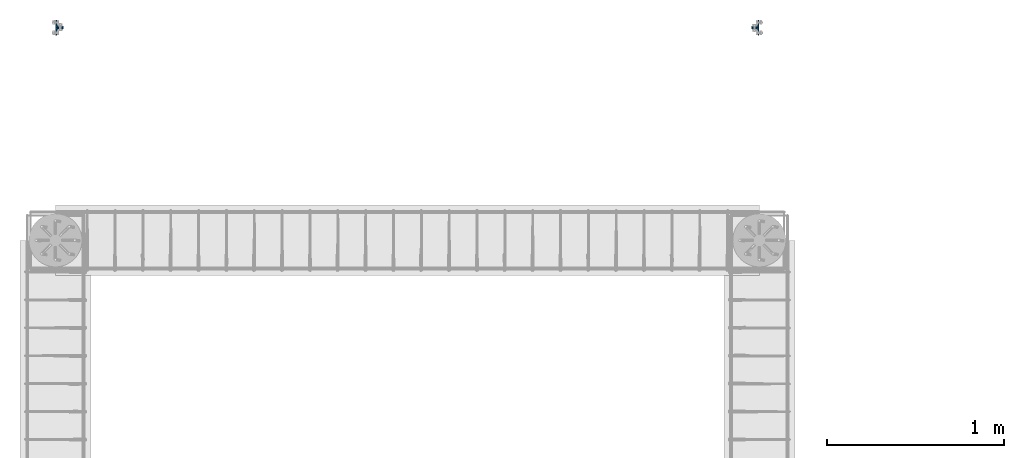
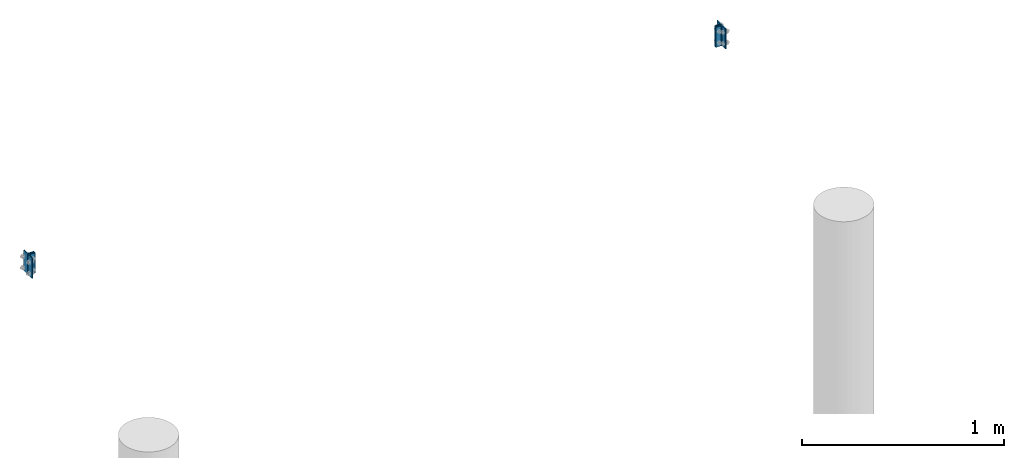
# One storey, part 3 of 20: 4 plates.
"""IFC4 building model written with IfcOpenShell, lengths in metres."""

import ifcopenshell
import ifcopenshell.guid

model = None  # the IFC model being written
_history = None  # IfcOwnerHistory: only IFC2X3 demands one
_inside = {}  # id of a spatial element -> (the spatial element, [elements in it])
_under = {}  # id of a project, library or spatial element -> (it, [spatial elements below it])
_declared = {}  # id of a project -> (the project, [libraries it declares])
_typed = {}  # id of a type object -> (the type object, [elements of that type])
_made_of = {}  # id of a material, layer set ... -> (it, [elements and type objects made of it])


def new_model(schema):
    """Start an empty IFC model of exactly this schema.

    Asked for "IFC4X3", IfcOpenShell would pick the latest addendum, in which some entities
    have other attributes; the version numbers below select the first issue.
    IFC2X3 requires an IfcOwnerHistory on every rooted entity: one is made here for all.
    """
    global model, _history
    if schema == "IFC4X3":
        model = ifcopenshell.file(schema_version=(4, 3, 0, 0))
    else:
        model = ifcopenshell.file(schema=schema)
    _inside.clear()
    _under.clear()
    _declared.clear()
    _typed.clear()
    _made_of.clear()
    _history = None
    if model.schema == "IFC2X3":
        org = make("IfcOrganization", Name="unknown")
        user = make(
            "IfcPersonAndOrganization",
            ThePerson=make("IfcPerson", FamilyName="unknown"),
            TheOrganization=org,
        )
        app = make(
            "IfcApplication",
            ApplicationDeveloper=org,
            Version="unknown",
            ApplicationFullName="unknown",
            ApplicationIdentifier="unknown",
        )
        _history = make(
            "IfcOwnerHistory",
            OwningUser=user,
            OwningApplication=app,
            ChangeAction="ADDED",
            CreationDate=0,
        )
    return model


def make(cls, **values):
    """One entity of the class cls with the attributes given. An attribute that is None is left unset."""
    return model.create_entity(
        cls, **{name: value for name, value in values.items() if value is not None}
    )


def rooted(cls, **values):
    """An entity with a GlobalId (a new one), such as an element, a storey or a relation."""
    return make(cls, GlobalId=ifcopenshell.guid.new(), OwnerHistory=_history, **values)


def si_unit(unit_type, name, prefix=None):
    """IfcSIUnit, for example si_unit("LENGTHUNIT", "METRE", prefix="MILLI")."""
    return make("IfcSIUnit", UnitType=unit_type, Prefix=prefix, Name=name)


def assignment(units):
    """IfcUnitAssignment: the units of a project."""
    return None if units is None else make("IfcUnitAssignment", Units=units)


def point(xyz):
    """IfcCartesianPoint."""
    return None if xyz is None else make("IfcCartesianPoint", Coordinates=xyz)


def direction(xyz):
    """IfcDirection."""
    return None if xyz is None else make("IfcDirection", DirectionRatios=xyz)


def frame(location, z_axis=None, x_axis=None):
    """IfcAxis2Placement3D, a coordinate frame: its origin and axes. An axis left out is left unset."""
    return make(
        "IfcAxis2Placement3D",
        Location=point(location),
        Axis=direction(z_axis),
        RefDirection=direction(x_axis),
    )


def origin_with_axes():
    """The frame at (0, 0, 0) with the z axis (0, 0, 1) and the x axis (1, 0, 0) written out."""
    return frame((0.0, 0.0, 0.0), z_axis=(0.0, 0.0, 1.0), x_axis=(1.0, 0.0, 0.0))


def place(relative_to, where):
    """IfcLocalPlacement: puts the frame where relative to a parent placement (None: the world)."""
    return make(
        "IfcLocalPlacement", PlacementRelTo=relative_to, RelativePlacement=where
    )


def context(
    kind, dimensions, precision=None, world=None, true_north=None, identifier=None
):
    """IfcGeometricRepresentationContext, for example the 3D "Model" context."""
    return make(
        "IfcGeometricRepresentationContext",
        ContextIdentifier=identifier,
        ContextType=kind,
        CoordinateSpaceDimension=dimensions,
        Precision=precision,
        WorldCoordinateSystem=world,
        TrueNorth=true_north,
    )


def project(units=None, contexts=None):
    """IfcProject with its units and contexts."""
    return rooted(
        "IfcProject",
        Name="project",
        RepresentationContexts=contexts,
        UnitsInContext=assignment(units),
    )


def spatial(cls, under=None, at=None, **own):
    """A site, building, storey or space (cls), placed at a placement, below another one or the project."""
    s = rooted(cls, ObjectPlacement=at, **own)
    if under is not None:
        _under.setdefault(under.id(), (under, []))[1].append(s)
    return s


def polyline(points):
    """IfcPolyline through the points."""
    return make("IfcPolyline", Points=[point(p) for p in points])


def outline(outer, holes=None, kind="AREA"):
    """IfcArbitraryClosedProfileDef: a profile drawn as a closed curve; with holes, ...WithVoids."""
    if holes is None:
        return make("IfcArbitraryClosedProfileDef", ProfileType=kind, OuterCurve=outer)
    return make(
        "IfcArbitraryProfileDefWithVoids",
        ProfileType=kind,
        OuterCurve=outer,
        InnerCurves=holes,
    )


def extrude(swept, where, along, depth):
    """IfcExtrudedAreaSolid: the profile swept, set in the frame where, extruded along a direction by depth."""
    return make(
        "IfcExtrudedAreaSolid",
        SweptArea=swept,
        Position=where,
        ExtrudedDirection=direction(along),
        Depth=depth,
    )


def shape(context_of_items, identifier, shape_type, items):
    """IfcShapeRepresentation: the items that make up one representation, for example the "Body"."""
    return make(
        "IfcShapeRepresentation",
        ContextOfItems=context_of_items,
        RepresentationIdentifier=identifier,
        RepresentationType=shape_type,
        Items=items,
    )


def made_of(thing, what):
    """Note that an element or type object is made of a material, layer set ...; save() writes the relation."""
    if what is not None:
        _made_of.setdefault(what.id(), (what, []))[1].append(thing)
    return thing


def type_object(cls, material=None, **own):
    """A type object (cls), such as IfcWallType, which elements share."""
    return made_of(rooted(cls, **own), material)


def element(
    cls,
    number,
    at=None,
    inside=None,
    cuts=None,
    type_object=None,
    material=None,
    context=None,
    identifier="Body",
    shape_type=None,
    held_by="IfcProductDefinitionShape",
    body=None,
    shapes=None,
    **own,
):
    """One element of the class cls, such as IfcWall. Its Tag is "e" and its number.

    at: its placement. inside: the storey or other place that contains it. cuts: it is an
    opening in that element (IfcRelVoidsElement). A single representation is given by context,
    identifier, shape_type and body (its items); several are given by shapes. held_by: the class
    of the entity that holds the representations. save() writes the other relations.
    """
    e = rooted(cls, Tag="e%d" % number, ObjectPlacement=at, **own)
    if body is not None:
        shapes = [shape(context, identifier, shape_type, body)]
    if shapes is not None:
        e.Representation = make(held_by, Representations=shapes)
    if inside is not None:
        _inside.setdefault(inside.id(), (inside, []))[1].append(e)
    if cuts is not None:
        rooted(
            "IfcRelVoidsElement", RelatingBuildingElement=cuts, RelatedOpeningElement=e
        )
    if type_object is not None:
        _typed.setdefault(type_object.id(), (type_object, []))[1].append(e)
    return made_of(e, material)


def aggregate(whole, parts):
    """IfcRelAggregates: a whole, such as a stair, and the parts it consists of."""
    return rooted("IfcRelAggregates", RelatingObject=whole, RelatedObjects=parts)


def save(model, path):
    """Write the relations noted so far, then the file.

    IfcRelAggregates (storeys below a building ...), IfcRelContainedInSpatialStructure (elements
    in a storey), IfcRelDefinesByType, IfcRelAssociatesMaterial and IfcRelDeclares: one each for
    every whole, place, type object, material and project.
    """
    for whole, parts in _under.values():
        aggregate(whole, parts)
    for where, things in _inside.values():
        rooted(
            "IfcRelContainedInSpatialStructure",
            RelatedElements=things,
            RelatingStructure=where,
        )
    for kind, things in _typed.values():
        rooted("IfcRelDefinesByType", RelatedObjects=things, RelatingType=kind)
    for what, things in _made_of.values():
        rooted("IfcRelAssociatesMaterial", RelatedObjects=things, RelatingMaterial=what)
    for by, libraries in _declared.values():
        rooted("IfcRelDeclares", RelatingContext=by, RelatedDefinitions=libraries)
    model.write(path)


model = new_model("IFC4")

# Units and contexts
model_context = context("Model", 3, precision=1e-05, world=origin_with_axes())
ifc_project = project(units=[si_unit("LENGTHUNIT", "METRE"), si_unit("AREAUNIT", "SQUARE_METRE"), si_unit("VOLUMEUNIT", "CUBIC_METRE"), si_unit("MASSUNIT", "GRAM", prefix="KILO"), si_unit("TIMEUNIT", "SECOND"), si_unit("PLANEANGLEUNIT", "RADIAN"), si_unit("SOLIDANGLEUNIT", "STERADIAN"), si_unit("THERMODYNAMICTEMPERATUREUNIT", "DEGREE_CELSIUS")], contexts=[model_context])

# Site, building, storey
placement_1 = place(None, origin_with_axes())
site = spatial("IfcSite", under=ifc_project, at=placement_1, Name="Italia", CompositionType="ELEMENT")
building = spatial("IfcBuilding", under=site, at=placement_1, Name="Tettoia", CompositionType="ELEMENT")
storey = spatial("IfcBuildingStorey", under=building, at=placement_1, Name="Storey 0", CompositionType="ELEMENT", Elevation=0.0)

# Plates
plate_type_1 = type_object("IfcPlateType", Name="Collegamento 0124_0125", PredefinedType="SHEET")
placement_2 = place(placement_1, origin_with_axes())
plate_1_placement = place(placement_2, origin_with_axes())
element("IfcPlate", 1, at=plate_1_placement, inside=storey, type_object=plate_type_1, Name="Collegamento 0124_0125", context=model_context, shape_type="SweptSolid", body=[
    extrude(outline(polyline([(0.0, 0.0), (0.00300026, 0.0), (0.00414658, -0.000228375), (0.00512123, -0.000878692), (0.00577164, -0.00185196), (0.00599861, -0.00300001), (0.00599861, -0.028), (0.00645638, -0.0302961), (0.00775719, -0.0322426), (0.00970268, -0.0335433), (0.0119991, -0.034), (0.0369987, -0.034), (0.038147, -0.0342284), (0.0391216, -0.0348787), (0.039772, -0.035852), (0.039999, -0.037), (0.039999, -0.04), (0.0, -0.04), (0.0, 0.0)])), frame((0.1428, 21.0225, 4.361), z_axis=(0.0, 0.0, -1.0), x_axis=(0.0, 1.0, 0.0)), (0.0, 0.0, 1.0), 0.122),
])
plate_type_2 = type_object("IfcPlateType", Name="Collegamento 0124_0125", PredefinedType="SHEET")
plate_2_placement = place(placement_2, origin_with_axes())
element("IfcPlate", 2, at=plate_2_placement, inside=storey, type_object=plate_type_2, Name="Collegamento 0124_0125", context=model_context, shape_type="SweptSolid", body=[
    extrude(outline(polyline([(0.0, 0.0), (0.000226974, 0.00114805), (0.00087738, 0.00212132), (0.00185204, 0.00277164), (0.00300026, 0.003), (0.0279999, 0.003), (0.0302963, 0.00345673), (0.0322418, 0.00475736), (0.0335426, 0.0067039), (0.0340004, 0.009), (0.0340004, 0.034), (0.0342274, 0.035148), (0.0348778, 0.0361213), (0.0358524, 0.0367716), (0.0369987, 0.037), (0.039999, 0.037), (0.039999, -0.003), (0.0, -0.003), (0.0, 0.0)])), frame((0.1058, 20.9775, 4.361), z_axis=(0.0, 0.0, -1.0), x_axis=(0.0, 1.0, 0.0)), (0.0, 0.0, 1.0), 0.122),
])
plate_type_3 = type_object("IfcPlateType", Name="Collegamento 0125_0124", PredefinedType="SHEET")
plate_3_placement = place(placement_2, origin_with_axes())
element("IfcPlate", 3, at=plate_3_placement, inside=storey, type_object=plate_type_3, Name="Collegamento 0125_0124", context=model_context, shape_type="SweptSolid", body=[
    extrude(outline(polyline([(0.0, 0.0), (-0.00300026, 0.0), (-0.00414658, 0.000228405), (-0.00512123, 0.000878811), (-0.00577164, 0.00185204), (-0.00599861, 0.00299978), (-0.00599861, 0.0279999), (-0.00645638, 0.0302958), (-0.00775719, 0.0322428), (-0.00970268, 0.0335431), (-0.0119991, 0.0339999), (-0.0369987, 0.0339999), (-0.038147, 0.0342283), (-0.0391216, 0.0348787), (-0.039772, 0.035852), (-0.039999, 0.0370002), (-0.039999, 0.04), (0.0, 0.04), (0.0, 0.0)])), frame((4.0272, 21.0175, 4.361), z_axis=(0.0, 0.0, -1.0), x_axis=(0.0, 1.0, 0.0)), (0.0, 0.0, 1.0), 0.122),
])
plate_type_4 = type_object("IfcPlateType", Name="Collegamento 0125_0124", PredefinedType="SHEET")
plate_4_placement = place(placement_2, origin_with_axes())
element("IfcPlate", 4, at=plate_4_placement, inside=storey, type_object=plate_type_4, Name="Collegamento 0125_0124", context=model_context, shape_type="SweptSolid", body=[
    extrude(outline(polyline([(0.0, 0.0), (-0.000226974, -0.00114822), (-0.00087738, -0.00212145), (-0.00185204, -0.00277185), (-0.00300026, -0.00300026), (-0.0279999, -0.00300026), (-0.0302963, -0.00345707), (-0.0322418, -0.0047574), (-0.0335426, -0.00670433), (-0.0340004, -0.0090003), (-0.0340004, -0.0340004), (-0.0342274, -0.0351481), (-0.0348778, -0.0361214), (-0.0358524, -0.0367718), (-0.0369987, -0.0370002), (-0.039999, -0.0370002), (-0.039999, 0.00299978), (0.0, 0.00299978), (0.0, 0.0)])), frame((4.0642, 21.0625, 4.361), z_axis=(0.0, 0.0, -1.0), x_axis=(0.0, 1.0, 0.0)), (0.0, 0.0, 1.0), 0.122),
])

save(model, "model.ifc")
